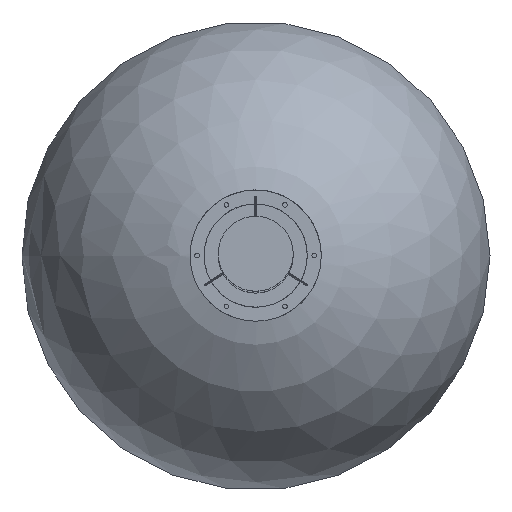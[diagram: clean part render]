
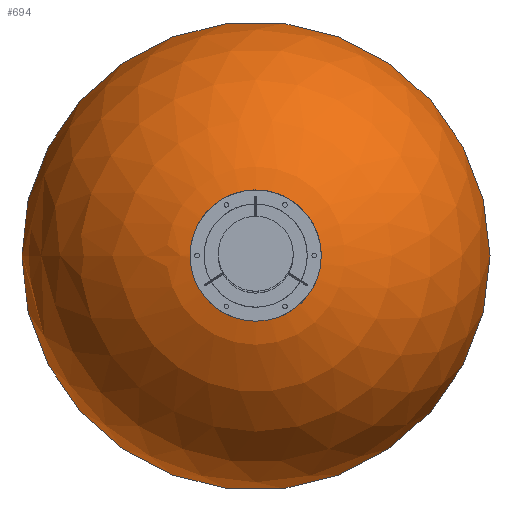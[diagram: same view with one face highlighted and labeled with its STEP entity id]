
A CAD part, top view. The second image highlights one B-rep face of the part: STEP entity #694.
In plain terms, the highlighted spherical face has radius 250 mm.
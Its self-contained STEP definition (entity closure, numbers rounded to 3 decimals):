
#12=SPHERICAL_SURFACE('',#832,250.);
#200=FACE_OUTER_BOUND('',#268,.T.);
#268=EDGE_LOOP('',(#632,#633,#634));
#310=CIRCLE('',#831,40.018);
#311=CIRCLE('',#833,250.);
#387=VERTEX_POINT('',#2054);
#388=VERTEX_POINT('',#2057);
#469=EDGE_CURVE('',#387,#387,#310,.T.);
#470=EDGE_CURVE('',#388,#387,#311,.T.);
#632=ORIENTED_EDGE('',*,*,#469,.T.);
#633=ORIENTED_EDGE('',*,*,#470,.F.);
#634=ORIENTED_EDGE('',*,*,#470,.T.);
#694=ADVANCED_FACE('',(#200),#12,.T.);
#831=AXIS2_PLACEMENT_3D('',#2055,#1044,#1045);
#832=AXIS2_PLACEMENT_3D('',#2056,#1046,#1047);
#833=AXIS2_PLACEMENT_3D('',#2058,#1048,#1049);
#1044=DIRECTION('center_axis',(0.,0.,1.));
#1045=DIRECTION('ref_axis',(1.,0.,0.));
#1046=DIRECTION('center_axis',(0.,0.,1.));
#1047=DIRECTION('ref_axis',(1.,0.,0.));
#1048=DIRECTION('center_axis',(0.,-1.,0.));
#1049=DIRECTION('ref_axis',(-1.,0.,0.));
#2054=CARTESIAN_POINT('',(-40.018,0.,0.));
#2055=CARTESIAN_POINT('Origin',(0.,0.,0.));
#2056=CARTESIAN_POINT('Origin',(0.,0.,246.776));
#2057=CARTESIAN_POINT('',(0.,0.,496.776));
#2058=CARTESIAN_POINT('Origin',(0.,0.,246.776));
